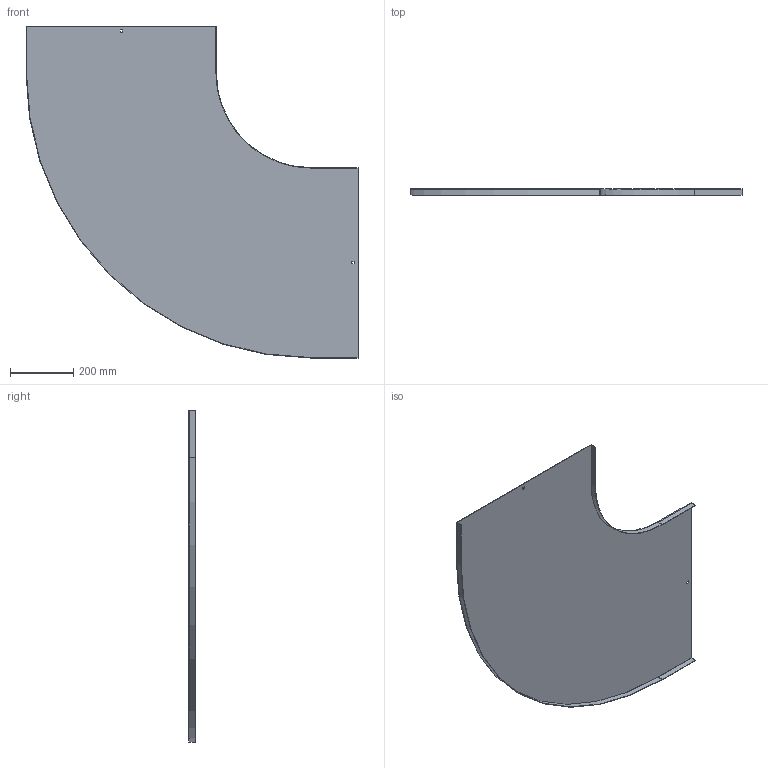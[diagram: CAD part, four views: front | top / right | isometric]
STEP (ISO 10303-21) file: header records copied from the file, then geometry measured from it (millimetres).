
FILE_DESCRIPTION (( 'STEP AP214' ), '1' );
FILE_NAME ('A2_10N3R600.step', '2025-02-21T10:53:59', ( '' ), ( '' ), 'SwSTEP 2.0', 'SolidWorks 2023', '' );
FILE_SCHEMA (( 'AUTOMOTIVE_DESIGN' ));
Length unit declared in the file: millimetre
Products named in the file (1): A2_10N3R600
Bounding box: 1051.5 x 20 x 1051.5 mm (x, y, z)
Volume: 1192603.2 mm3; surface area: 1595878 mm2
Topology: 1 solids, 1 shells, 26 faces, 72 edges, 48 vertices
Faces by surface type: plane 22, cylinder 4
Entity records: 855 total; most frequent: CARTESIAN_POINT 147, ORIENTED_EDGE 144, DIRECTION 134, EDGE_CURVE 72, LINE 64, VECTOR 64, VERTEX_POINT 48, AXIS2_PLACEMENT_3D 35
